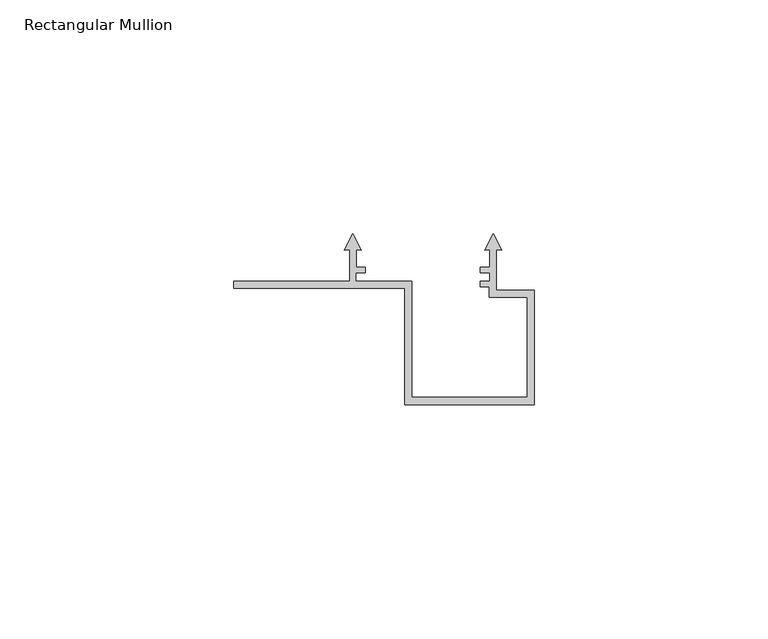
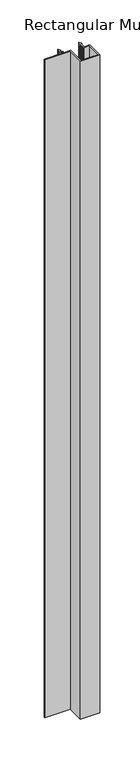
"""IFC4 building model written with IfcOpenShell, lengths in millimetres: member geometry, Rectangular Mullion : Renson_Linarte_LA-B25-01."""

from ifc_helpers import new_model, si_unit, frame, origin, place, context, project, spatial, polyline, outline, extrude, source, transform, mapped, element, save


def rectangular_mullion_3e5b5e47(model_context):
    return source(origin(), model_context, "Body", "SweptSolid", [
        extrude(outline(polyline([(36.6500002, -61.6), (36.6500002, -36.7004291), (0.0, -36.7004291), (0.0, -35.2056679), (24.8, -35.2056679), (24.8, -28.5038207), (23.6842647, -28.6014348), (25.5000014, -25.0378474), (27.315738, -28.6014348), (26.2000002, -28.5038204), (26.2000002, -32.1999997), (28.1922643, -32.1999997), (28.1922643, -33.4008281), (26.1000012, -33.4008281), (26.1000012, -35.1999997), (38.1500002, -35.1999997), (38.1500002, -60.0999997), (62.8500002, -60.0999997), (62.8500002, -38.5997951), (54.6997126, -38.5997951), (54.6997126, -36.4015214), (52.8211027, -36.4015214), (52.8211027, -35.1999954), (54.8, -35.1999954), (54.8, -33.4004386), (52.8216175, -33.4004386), (52.8216175, -32.198351), (54.8091807, -32.198351), (54.8091807, -28.5038206), (53.6934442, -28.6014348), (55.5091808, -25.0378474), (57.3249174, -28.6014348), (56.2091809, -28.5038205), (56.2091809, -37.0995654), (64.3500002, -37.0995654), (64.3500002, -61.6), (36.6500002, -61.6)])), frame((0.0, 0.0, -1000.0), z_axis=(0.0, 0.0, 1.0), x_axis=(1.0, 0.0, 0.0)), (0.0, 0.0, 1.0), 1000.0),
    ])


if __name__ == "__main__":
    model = new_model("IFC4")
    model_context = context("Model", 3, world=origin())
    ifc_project = project(units=[si_unit("LENGTHUNIT", "METRE", prefix="MILLI")], contexts=[model_context])
    site = spatial("IfcSite", under=ifc_project)
    building = spatial("IfcBuilding", under=site)
    placement = place(None, origin())
    rectangular_mullion_shape = rectangular_mullion_3e5b5e47(model_context)
    element("IfcMember", 1, ObjectType="Rectangular Mullion : Renson_Linarte_LA-B25-01", at=placement, inside=building, context=model_context, shape_type="MappedRepresentation", body=[
        mapped(rectangular_mullion_shape, transform((0.0, 0.0, 0.0), x_axis=(1.0, 0.0, 0.0), y_axis=(0.0, 1.0, 0.0), z_axis=(0.0, 0.0, 1.0))),
    ])
    save(model, "model.ifc")
